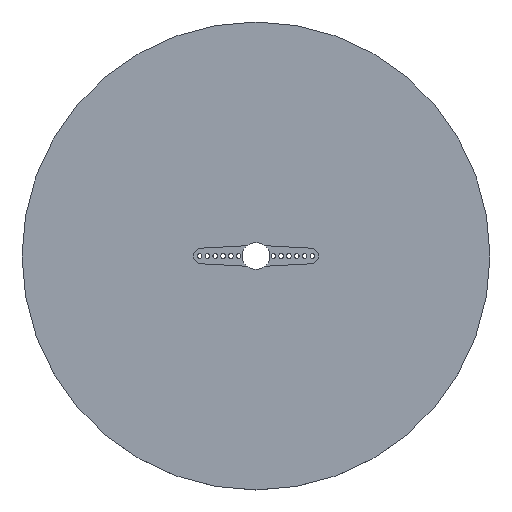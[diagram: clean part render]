
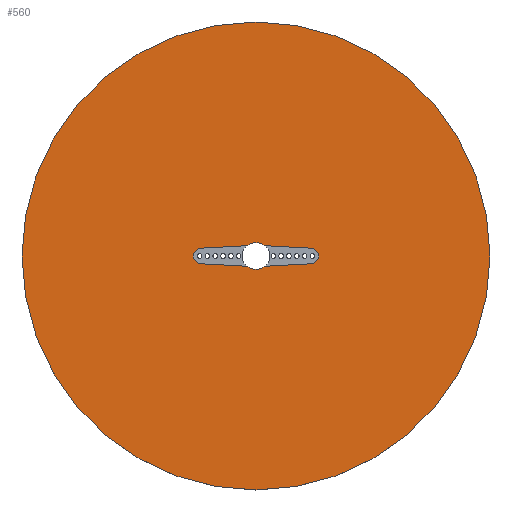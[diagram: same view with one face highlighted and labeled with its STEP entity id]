
A CAD part, top view. The second image highlights one B-rep face of the part: STEP entity #560.
In plain terms, the highlighted planar face has unit normal (0, 0, 1).
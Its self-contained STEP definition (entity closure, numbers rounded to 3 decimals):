
#27=FACE_BOUND('',#114,.T.);
#47=PLANE('',#639);
#74=FACE_OUTER_BOUND('',#113,.T.);
#113=EDGE_LOOP('',(#486));
#114=EDGE_LOOP('',(#487,#488,#489,#490,#491,#492,#493,#494));
#140=LINE('',#866,#177);
#155=LINE('',#929,#192);
#160=LINE('',#939,#197);
#164=LINE('',#951,#201);
#177=VECTOR('',#702,10.);
#192=VECTOR('',#769,10.);
#197=VECTOR('',#776,10.);
#201=VECTOR('',#792,10.);
#218=CIRCLE('',#601,2.);
#234=CIRCLE('',#628,2.);
#236=CIRCLE('',#631,3.45);
#238=CIRCLE('',#635,3.45);
#239=CIRCLE('',#637,60.);
#259=VERTEX_POINT('',#863);
#260=VERTEX_POINT('',#865);
#262=VERTEX_POINT('',#871);
#281=VERTEX_POINT('',#926);
#282=VERTEX_POINT('',#928);
#285=VERTEX_POINT('',#936);
#286=VERTEX_POINT('',#938);
#288=VERTEX_POINT('',#946);
#289=VERTEX_POINT('',#956);
#317=EDGE_CURVE('',#260,#259,#140,.T.);
#321=EDGE_CURVE('',#259,#262,#218,.T.);
#348=EDGE_CURVE('',#282,#281,#155,.T.);
#353=EDGE_CURVE('',#286,#285,#160,.T.);
#355=EDGE_CURVE('',#281,#286,#234,.T.);
#357=EDGE_CURVE('',#288,#282,#236,.T.);
#360=EDGE_CURVE('',#262,#288,#164,.T.);
#362=EDGE_CURVE('',#285,#260,#238,.T.);
#363=EDGE_CURVE('',#289,#289,#239,.T.);
#486=ORIENTED_EDGE('',*,*,#363,.T.);
#487=ORIENTED_EDGE('',*,*,#362,.T.);
#488=ORIENTED_EDGE('',*,*,#317,.T.);
#489=ORIENTED_EDGE('',*,*,#321,.T.);
#490=ORIENTED_EDGE('',*,*,#360,.T.);
#491=ORIENTED_EDGE('',*,*,#357,.T.);
#492=ORIENTED_EDGE('',*,*,#348,.T.);
#493=ORIENTED_EDGE('',*,*,#355,.T.);
#494=ORIENTED_EDGE('',*,*,#353,.T.);
#560=ADVANCED_FACE('',(#74,#27),#47,.T.);
#601=AXIS2_PLACEMENT_3D('',#873,#708,#709);
#628=AXIS2_PLACEMENT_3D('',#942,#780,#781);
#631=AXIS2_PLACEMENT_3D('',#947,#786,#787);
#635=AXIS2_PLACEMENT_3D('',#954,#797,#798);
#637=AXIS2_PLACEMENT_3D('',#957,#801,#802);
#639=AXIS2_PLACEMENT_3D('',#961,#806,#807);
#702=DIRECTION('',(-0.999,0.055,0.));
#708=DIRECTION('center_axis',(0.,0.,-1.));
#709=DIRECTION('ref_axis',(-0.055,0.999,0.));
#769=DIRECTION('',(0.999,-0.055,0.));
#776=DIRECTION('',(-0.999,-0.055,0.));
#780=DIRECTION('center_axis',(0.,0.,-1.));
#781=DIRECTION('ref_axis',(0.055,-0.999,0.));
#786=DIRECTION('center_axis',(0.,0.,-1.));
#787=DIRECTION('ref_axis',(0.64,0.768,0.));
#792=DIRECTION('',(0.999,0.055,0.));
#797=DIRECTION('center_axis',(0.,0.,-1.));
#798=DIRECTION('ref_axis',(-0.64,-0.768,0.));
#801=DIRECTION('center_axis',(0.,0.,1.));
#802=DIRECTION('ref_axis',(1.,0.,0.));
#806=DIRECTION('center_axis',(0.,0.,1.));
#807=DIRECTION('ref_axis',(1.,0.,0.));
#863=CARTESIAN_POINT('',(-14.159,-1.997,4.));
#865=CARTESIAN_POINT('',(-2.209,-2.65,4.));
#866=CARTESIAN_POINT('',(-14.159,-1.997,4.));
#871=CARTESIAN_POINT('',(-14.159,1.997,4.));
#873=CARTESIAN_POINT('Origin',(-14.05,0.,4.));
#926=CARTESIAN_POINT('',(14.159,1.997,4.));
#928=CARTESIAN_POINT('',(2.209,2.65,4.));
#929=CARTESIAN_POINT('',(14.159,1.997,4.));
#936=CARTESIAN_POINT('',(2.209,-2.65,4.));
#938=CARTESIAN_POINT('',(14.159,-1.997,4.));
#939=CARTESIAN_POINT('',(2.209,-2.65,4.));
#942=CARTESIAN_POINT('Origin',(14.05,0.,4.));
#946=CARTESIAN_POINT('',(-2.209,2.65,4.));
#947=CARTESIAN_POINT('Origin',(0.,0.,4.));
#951=CARTESIAN_POINT('',(-2.209,2.65,4.));
#954=CARTESIAN_POINT('Origin',(0.,0.,4.));
#956=CARTESIAN_POINT('',(-60.,0.,4.));
#957=CARTESIAN_POINT('Origin',(0.,0.,4.));
#961=CARTESIAN_POINT('Origin',(0.,0.,4.));
